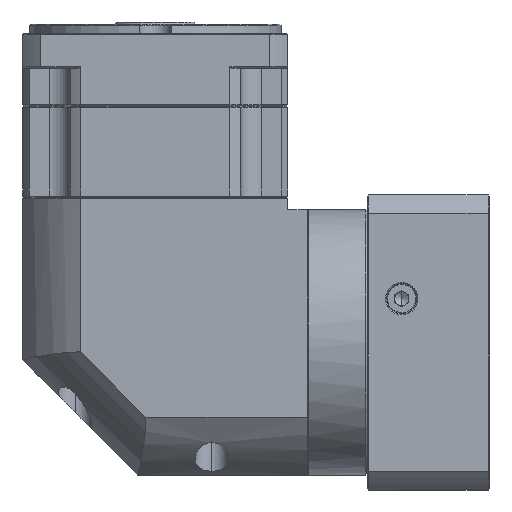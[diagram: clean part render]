
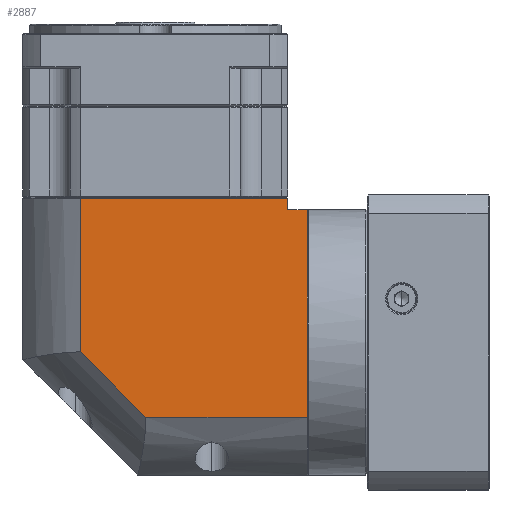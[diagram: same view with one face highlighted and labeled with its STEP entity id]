
A CAD part, left-side view. The second image highlights one B-rep face of the part: STEP entity #2887.
In plain terms, the highlighted planar face has unit normal (-1, 0, 0).
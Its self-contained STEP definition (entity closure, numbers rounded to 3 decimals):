
#2887 = ADVANCED_FACE ( 'NONE', ( #72209 ), #2947, .F. ) ;
#2947 = PLANE ( 'NONE',  #144283 ) ;
#3255 = DIRECTION ( 'NONE',  ( 0., 0., 1. ) ) ;
#4216 = CARTESIAN_POINT ( 'NONE',  ( -266.667, -108.885, 51.891 ) ) ;
#5551 = VECTOR ( 'NONE', #9717, 1000. ) ;
#9368 = ORIENTED_EDGE ( 'NONE', *, *, #92821, .F. ) ;
#9391 = LINE ( 'NONE', #4216, #44013 ) ;
#9717 = DIRECTION ( 'NONE',  ( 0., -1., 0. ) ) ;
#10871 = VERTEX_POINT ( 'NONE', #133939 ) ;
#11186 = LINE ( 'NONE', #91264, #45774 ) ;
#12083 = DIRECTION ( 'NONE',  ( 0., 0., -1. ) ) ;
#12507 = VECTOR ( 'NONE', #43328, 1000. ) ;
#16216 = CARTESIAN_POINT ( 'NONE',  ( -266.667, -18.985, 56.891 ) ) ;
#16689 = CARTESIAN_POINT ( 'NONE',  ( -266.667, -117.285, -38.009 ) ) ;
#19490 = EDGE_CURVE ( 'NONE', #113086, #154567, #46812, .T. ) ;
#22992 = VERTEX_POINT ( 'NONE', #111806 ) ;
#30771 = EDGE_CURVE ( 'NONE', #114895, #154567, #139542, .T. ) ;
#43328 = DIRECTION ( 'NONE',  ( 0., 0., 1. ) ) ;
#44013 = VECTOR ( 'NONE', #121664, 1000. ) ;
#45774 = VECTOR ( 'NONE', #131004, 1000. ) ;
#46812 = LINE ( 'NONE', #158723, #107731 ) ;
#50504 = VECTOR ( 'NONE', #12083, 1000. ) ;
#57777 = CARTESIAN_POINT ( 'NONE',  ( -266.667, -18.985, -9.671 ) ) ;
#59121 = VERTEX_POINT ( 'NONE', #57777 ) ;
#60712 = ORIENTED_EDGE ( 'NONE', *, *, #98820, .F. ) ;
#67325 = DIRECTION ( 'NONE',  ( 0., 0.707, 0.707 ) ) ;
#68249 = DIRECTION ( 'NONE',  ( 1., 0., 0. ) ) ;
#70612 = LINE ( 'NONE', #118386, #151732 ) ;
#72209 = FACE_OUTER_BOUND ( 'NONE', #78783, .T. ) ;
#78783 = EDGE_LOOP ( 'NONE', ( #155176, #9368, #103123, #60712, #143377, #111998, #167664 ) ) ;
#85050 = LINE ( 'NONE', #103469, #50504 ) ;
#91264 = CARTESIAN_POINT ( 'NONE',  ( -266.667, 6.115, -38.009 ) ) ;
#92821 = EDGE_CURVE ( 'NONE', #22992, #59121, #70612, .T. ) ;
#98820 = EDGE_CURVE ( 'NONE', #10871, #125316, #85050, .T. ) ;
#101665 = CARTESIAN_POINT ( 'NONE',  ( -266.667, 6.115, 56.891 ) ) ;
#103123 = ORIENTED_EDGE ( 'NONE', *, *, #153176, .F. ) ;
#103469 = CARTESIAN_POINT ( 'NONE',  ( -266.667, -117.285, 63.391 ) ) ;
#106465 = CARTESIAN_POINT ( 'NONE',  ( -266.667, -108.885, 56.891 ) ) ;
#107731 = VECTOR ( 'NONE', #3255, 1000. ) ;
#111806 = CARTESIAN_POINT ( 'NONE',  ( -266.667, -47.323, -38.009 ) ) ;
#111998 = ORIENTED_EDGE ( 'NONE', *, *, #19490, .T. ) ;
#112729 = EDGE_CURVE ( 'NONE', #10871, #113086, #9391, .T. ) ;
#113086 = VERTEX_POINT ( 'NONE', #157804 ) ;
#114895 = VERTEX_POINT ( 'NONE', #16216 ) ;
#118386 = CARTESIAN_POINT ( 'NONE',  ( -266.667, -47.323, -38.009 ) ) ;
#120524 = EDGE_CURVE ( 'NONE', #59121, #114895, #150572, .T. ) ;
#120967 = CARTESIAN_POINT ( 'NONE',  ( -266.667, -18.985, 63.391 ) ) ;
#121664 = DIRECTION ( 'NONE',  ( 0., 1., 0. ) ) ;
#125316 = VERTEX_POINT ( 'NONE', #16689 ) ;
#131004 = DIRECTION ( 'NONE',  ( 0., 1., 0. ) ) ;
#133939 = CARTESIAN_POINT ( 'NONE',  ( -266.667, -117.285, 51.891 ) ) ;
#139542 = LINE ( 'NONE', #101665, #5551 ) ;
#143377 = ORIENTED_EDGE ( 'NONE', *, *, #112729, .T. ) ;
#144283 = AXIS2_PLACEMENT_3D ( 'NONE', #145954, #68249, #158957 ) ;
#145954 = CARTESIAN_POINT ( 'NONE',  ( -266.667, 6.115, 63.391 ) ) ;
#150572 = LINE ( 'NONE', #120967, #12507 ) ;
#151732 = VECTOR ( 'NONE', #67325, 1000. ) ;
#153176 = EDGE_CURVE ( 'NONE', #125316, #22992, #11186, .T. ) ;
#154567 = VERTEX_POINT ( 'NONE', #106465 ) ;
#155176 = ORIENTED_EDGE ( 'NONE', *, *, #120524, .F. ) ;
#157804 = CARTESIAN_POINT ( 'NONE',  ( -266.667, -108.885, 51.891 ) ) ;
#158723 = CARTESIAN_POINT ( 'NONE',  ( -266.667, -108.885, -63.109 ) ) ;
#158957 = DIRECTION ( 'NONE',  ( 0., 1., 0. ) ) ;
#167664 = ORIENTED_EDGE ( 'NONE', *, *, #30771, .F. ) ;
